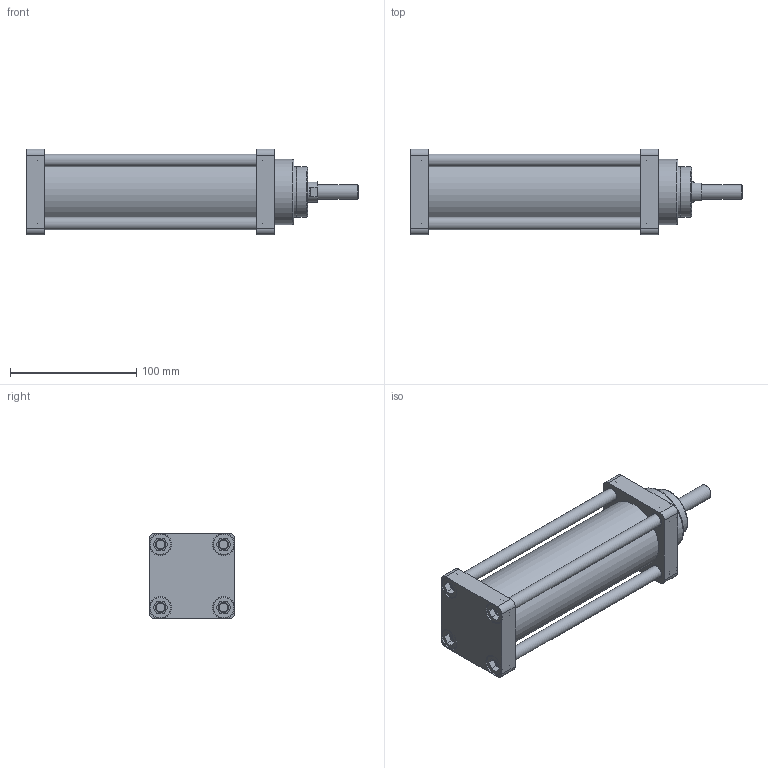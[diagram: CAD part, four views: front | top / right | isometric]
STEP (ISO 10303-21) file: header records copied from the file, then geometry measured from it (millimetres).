
FILE_DESCRIPTION(/* description */ (''),/* implementation_level */ '2;1');
FILE_NAME(/* name */ 'C:/Users/DLL/YandexDisk/Traceparts/Pnömatikler/SelfPublishingProductsCatalogBasicTemplate_KINETICTR.xlsm/TLSK_2K_50_200.step',/* time_stamp */ '2022-10-02T18:42:45+03:00',/* author */ (''),/* organization */ (''),/* preprocessor_version */ 'ST-DEVELOPER v19',/* originating_system */ 'Autodesk Translation Framework v11.7.0.108',/* authorisation */ '');
FILE_SCHEMA (('AUTOMOTIVE_DESIGN { 1 0 10303 214 3 1 1 }'));
Length unit declared in the file: millimetre
Products named in the file (22): TLSK_2K_50_1000_WEB; 50_ARKA_KAPAK_yuv_boru; Component2; 50_ON_KAPAK_yuv_boru; pap_40_12; KASTAS-K103-040; CIVATA; Ø50XØ55_1000_AL_BORU_WEB; Component1; SAPLAMA_Ø10_WEB; Component1_1; SAPLAMA_Ø10_WEB v1(Mirror); Component1(Mirror); SAPLAMA_Ø10_WEB v1(Mirror) (1); Component1(Mirror) (1); SAPLAMA_Ø10_WEB v1(Mirror)(Mirror); Component1(Mirror)(Mirror); Ø16_1000_KROM_MİL_WEB; Component1_2; 50_1000_26boru_kapak_WEB; Ø40XØ35_1000_BORU_WEB; Component1_3
Assembly tree (28 placements, depth 3):
  TLSK_2K_50_1000_WEB
    50_ARKA_KAPAK_yuv_boru
      Component2
    50_ON_KAPAK_yuv_boru
      pap_40_12
      KASTAS-K103-040
    CIVATA  x8
    Ø50XØ55_1000_AL_BORU_WEB
      Component1
    SAPLAMA_Ø10_WEB
      Component1_1
    SAPLAMA_Ø10_WEB v1(Mirror)
      Component1(Mirror)
    SAPLAMA_Ø10_WEB v1(Mirror) (1)
      Component1(Mirror) (1)
    SAPLAMA_Ø10_WEB v1(Mirror)(Mirror)
      Component1(Mirror)(Mirror)
    Ø16_1000_KROM_MİL_WEB
      Component1_2
    50_1000_26boru_kapak_WEB
    Ø40XØ35_1000_BORU_WEB
      Component1_3
Bounding box: 263 x 68 x 68 mm (x, y, z)
Volume: 292575.5 mm3; surface area: 170695.1 mm2
Topology: 24 solids, 24 shells, 811 faces, 2068 edges, 1370 vertices
Faces by surface type: bspline 306, plane 303, cylinder 122, cone 70, torus 10
Full cylindrical faces by diameter (mm): 3 x4, 4 x2, 6.779 x8, 6.8 x8, 7.866 x1, 8 x8, 8.526 x4, 8.707 x2, 10 x4, 10.45 x1, 10.5 x4, 11.834 x1, 12 x8, 16 x1, 16.6 x1, 17 x8, 17.5 x8, 17.7 x1, 18 x1, 20.5 x1, 25.7 x1, 30 x1, 32 x1, 35 x1, 35.035 x1, 35.884 x1, 36 x1, 38.85 x1, 40 x3, 40.2 x1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
Entity records: 34200 total; most frequent: CARTESIAN_POINT 18721, ORIENTED_EDGE 3532, DIRECTION 2274, EDGE_CURVE 1766, VERTEX_POINT 1181, EDGE_LOOP 797, AXIS2_PLACEMENT_3D 767, LINE 740
